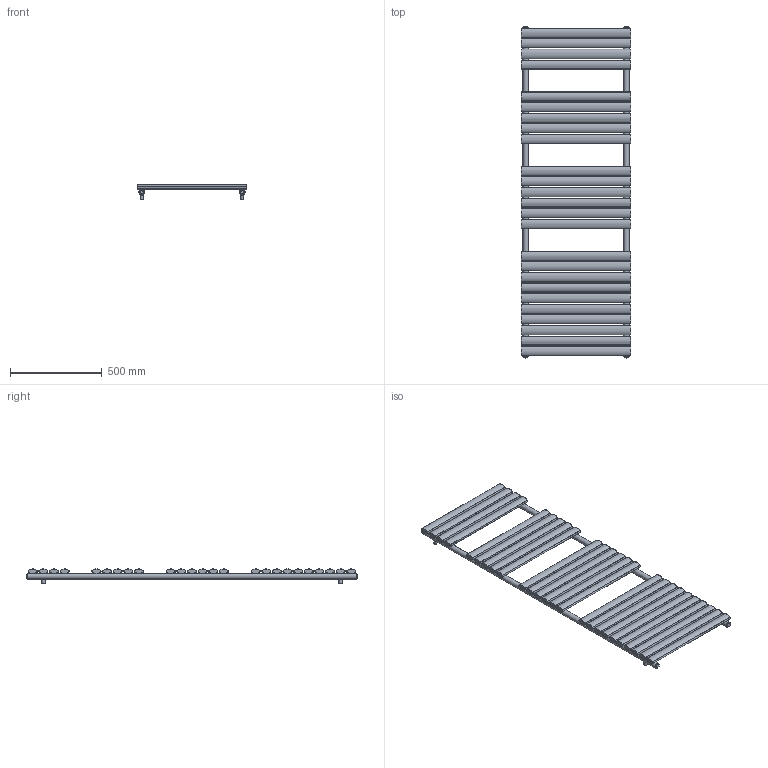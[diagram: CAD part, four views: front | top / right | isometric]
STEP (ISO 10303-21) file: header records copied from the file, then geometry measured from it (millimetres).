
FILE_DESCRIPTION(/* description */ (''),/* implementation_level */ '2;1');
FILE_NAME(/* name */ 'C:\Grzejniki\13DLUXRAD\łazienkowe\NEO\NEO 1802x600.iam.stp',/* time_stamp */ '2016-06-28T17:35:34+02:00',/* author */ ('m.szydziak'),/* organization */ (''),/* preprocessor_version */ 'ST-DEVELOPER v16.5',/* originating_system */ 'Autodesk Inventor 2017',/* authorisation */ '');
FILE_SCHEMA (('AUTOMOTIVE_DESIGN { 1 0 10303 214 3 1 1 }'));
Length unit declared in the file: millimetre
Products named in the file (6): NEO 1802x600; %%c30x1,5x1802; 50x25x1,2x600; zaślepka fi30 G0,5inch; uchwyt stały; korek
Assembly tree (39 placements, depth 2):
  NEO 1802x600
    %%c30x1,5x1802  x2
    50x25x1,2x600  x25
    zaślepka fi30 G0,5inch  x4
    uchwyt stały  x4
    korek  x4
Bounding box: 600 x 1814 x 76.86 mm (x, y, z)
Volume: 2651472.7 mm3; surface area: 4246576.9 mm2
Topology: 39 solids, 39 shells, 450 faces, 1070 edges, 748 vertices
Faces by surface type: cylinder 274, plane 176
Full cylindrical faces by diameter (mm): 5.8 x50, 15 x4, 18 x4, 18.631 x4, 24 x4, 27 x6, 30 x2
Entity records: 1662 total; most frequent: CARTESIAN_POINT 360, DIRECTION 286, ORIENTED_EDGE 158, AXIS2_PLACEMENT_3D 127, EDGE_CURVE 79, EDGE_LOOP 60, VERTEX_POINT 59, PRODUCT_DEFINITION_SHAPE 45
